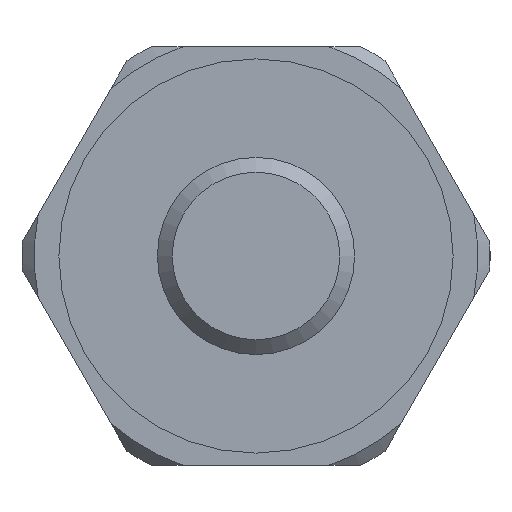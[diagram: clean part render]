
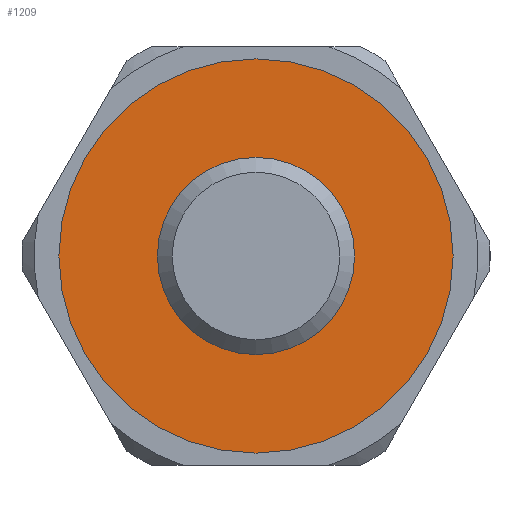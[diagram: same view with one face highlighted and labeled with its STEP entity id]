
A CAD part, left-side view. The second image highlights one B-rep face of the part: STEP entity #1209.
In plain terms, the highlighted planar face has unit normal (-1, 0, 0).
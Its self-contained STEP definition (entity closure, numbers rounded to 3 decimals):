
#79=FACE_BOUND('',#217,.T.);
#99=PLANE('',#1393);
#145=FACE_OUTER_BOUND('',#216,.T.);
#216=EDGE_LOOP('',(#976,#977));
#217=EDGE_LOOP('',(#978,#979));
#371=CIRCLE('',#1321,3.5);
#372=CIRCLE('',#1322,3.5);
#407=CIRCLE('',#1391,8.);
#408=CIRCLE('',#1392,8.);
#475=VERTEX_POINT('',#1918);
#476=VERTEX_POINT('',#1919);
#535=VERTEX_POINT('',#2153);
#536=VERTEX_POINT('',#2154);
#601=EDGE_CURVE('',#475,#476,#371,.T.);
#602=EDGE_CURVE('',#476,#475,#372,.T.);
#694=EDGE_CURVE('',#535,#536,#407,.T.);
#695=EDGE_CURVE('',#536,#535,#408,.T.);
#976=ORIENTED_EDGE('',*,*,#694,.T.);
#977=ORIENTED_EDGE('',*,*,#695,.T.);
#978=ORIENTED_EDGE('',*,*,#601,.T.);
#979=ORIENTED_EDGE('',*,*,#602,.T.);
#1209=ADVANCED_FACE('',(#145,#79),#99,.T.);
#1321=AXIS2_PLACEMENT_3D('',#1920,#1510,#1511);
#1322=AXIS2_PLACEMENT_3D('',#1921,#1512,#1513);
#1391=AXIS2_PLACEMENT_3D('',#2155,#1683,#1684);
#1392=AXIS2_PLACEMENT_3D('',#2156,#1685,#1686);
#1393=AXIS2_PLACEMENT_3D('',#2158,#1688,#1689);
#1510=DIRECTION('center_axis',(1.,0.,0.));
#1511=DIRECTION('ref_axis',(0.,0.,1.));
#1512=DIRECTION('center_axis',(1.,0.,0.));
#1513=DIRECTION('ref_axis',(0.,0.,1.));
#1683=DIRECTION('center_axis',(-1.,0.,0.));
#1684=DIRECTION('ref_axis',(0.,0.,1.));
#1685=DIRECTION('center_axis',(-1.,0.,0.));
#1686=DIRECTION('ref_axis',(0.,0.,1.));
#1688=DIRECTION('center_axis',(-1.,0.,0.));
#1689=DIRECTION('ref_axis',(0.,0.,1.));
#1918=CARTESIAN_POINT('',(-30.697,0.,11.201));
#1919=CARTESIAN_POINT('',(-30.697,0.,4.201));
#1920=CARTESIAN_POINT('Origin',(-30.697,0.,7.701));
#1921=CARTESIAN_POINT('Origin',(-30.697,0.,7.701));
#2153=CARTESIAN_POINT('',(-30.697,0.,15.701));
#2154=CARTESIAN_POINT('',(-30.697,0.,-0.299));
#2155=CARTESIAN_POINT('Origin',(-30.697,0.,7.701));
#2156=CARTESIAN_POINT('Origin',(-30.697,0.,7.701));
#2158=CARTESIAN_POINT('Origin',(-30.697,0.,7.701));
